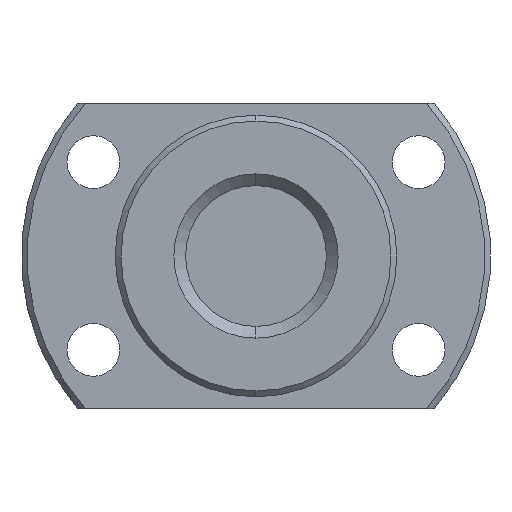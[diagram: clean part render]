
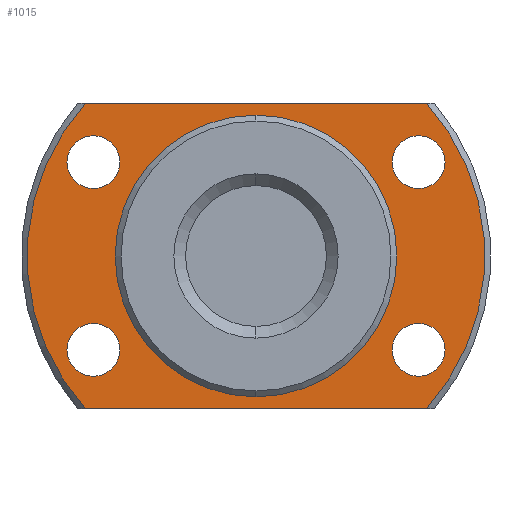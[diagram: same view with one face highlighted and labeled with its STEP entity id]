
A CAD part, left-side view. The second image highlights one B-rep face of the part: STEP entity #1015.
In plain terms, the highlighted planar face has unit normal (-1, 0, 0) as drawn and (1, 0, 0) by its records, which use the part's own axes.
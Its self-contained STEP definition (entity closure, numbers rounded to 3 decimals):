
#2 = CARTESIAN_POINT ( 'NONE',  ( 8., -13.856, -8. ) ) ;
#14 = CARTESIAN_POINT ( 'NONE',  ( 8., 14.534, -13. ) ) ;
#18 = FACE_BOUND ( 'NONE', #570, .T. ) ;
#22 = CIRCLE ( 'NONE', #1214, 2.25 ) ;
#62 = EDGE_CURVE ( 'NONE', #1338, #1148, #1162, .T. ) ;
#85 = CIRCLE ( 'NONE', #532, 19.5 ) ;
#123 = VERTEX_POINT ( 'NONE', #1043 ) ;
#132 = VERTEX_POINT ( 'NONE', #1577 ) ;
#142 = CARTESIAN_POINT ( 'NONE',  ( 8., -13.856, 5.75 ) ) ;
#148 = CARTESIAN_POINT ( 'NONE',  ( 8., 14.534, 13. ) ) ;
#149 = DIRECTION ( 'NONE',  ( 1., 0., 0. ) ) ;
#166 = CARTESIAN_POINT ( 'NONE',  ( 8., 0., 0. ) ) ;
#180 = VERTEX_POINT ( 'NONE', #142 ) ;
#185 = DIRECTION ( 'NONE',  ( 0., 0., -1. ) ) ;
#189 = EDGE_CURVE ( 'NONE', #782, #132, #1432, .T. ) ;
#202 = CARTESIAN_POINT ( 'NONE',  ( 8., -14.534, -13. ) ) ;
#215 = AXIS2_PLACEMENT_3D ( 'NONE', #280, #822, #1593 ) ;
#221 = ORIENTED_EDGE ( 'NONE', *, *, #631, .T. ) ;
#229 = AXIS2_PLACEMENT_3D ( 'NONE', #1475, #832, #809 ) ;
#240 = FACE_BOUND ( 'NONE', #649, .T. ) ;
#255 = DIRECTION ( 'NONE',  ( 0., -1., 0. ) ) ;
#266 = VERTEX_POINT ( 'NONE', #1061 ) ;
#279 = AXIS2_PLACEMENT_3D ( 'NONE', #2, #1186, #908 ) ;
#280 = CARTESIAN_POINT ( 'NONE',  ( 8., -13.856, 8. ) ) ;
#285 = ORIENTED_EDGE ( 'NONE', *, *, #1313, .T. ) ;
#288 = VERTEX_POINT ( 'NONE', #380 ) ;
#290 = DIRECTION ( 'NONE',  ( 1., 0., 0. ) ) ;
#296 = ORIENTED_EDGE ( 'NONE', *, *, #62, .T. ) ;
#319 = EDGE_LOOP ( 'NONE', ( #285, #942, #1478, #801 ) ) ;
#369 = AXIS2_PLACEMENT_3D ( 'NONE', #1189, #1341, #687 ) ;
#380 = CARTESIAN_POINT ( 'NONE',  ( 8., -15.805, -6.875 ) ) ;
#389 = CARTESIAN_POINT ( 'NONE',  ( 8., 13.856, -10.25 ) ) ;
#401 = EDGE_CURVE ( 'NONE', #123, #1487, #973, .T. ) ;
#406 = CARTESIAN_POINT ( 'NONE',  ( 8., 12., 13. ) ) ;
#414 = FACE_BOUND ( 'NONE', #819, .T. ) ;
#429 = CIRCLE ( 'NONE', #680, 2.25 ) ;
#445 = ORIENTED_EDGE ( 'NONE', *, *, #1664, .T. ) ;
#466 = DIRECTION ( 'NONE',  ( 0., 0., -1. ) ) ;
#478 = DIRECTION ( 'NONE',  ( 0., 0., -1. ) ) ;
#493 = CIRCLE ( 'NONE', #279, 2.25 ) ;
#515 = ORIENTED_EDGE ( 'NONE', *, *, #1172, .F. ) ;
#532 = AXIS2_PLACEMENT_3D ( 'NONE', #808, #149, #938 ) ;
#548 = FACE_BOUND ( 'NONE', #1573, .T. ) ;
#550 = EDGE_CURVE ( 'NONE', #266, #863, #22, .T. ) ;
#570 = EDGE_LOOP ( 'NONE', ( #1496, #445 ) ) ;
#617 = AXIS2_PLACEMENT_3D ( 'NONE', #1690, #901, #478 ) ;
#631 = EDGE_CURVE ( 'NONE', #863, #266, #1401, .T. ) ;
#643 = CARTESIAN_POINT ( 'NONE',  ( 8., -13.856, -8. ) ) ;
#649 = EDGE_LOOP ( 'NONE', ( #775, #1306 ) ) ;
#680 = AXIS2_PLACEMENT_3D ( 'NONE', #1378, #824, #185 ) ;
#687 = DIRECTION ( 'NONE',  ( 0., 0., -1. ) ) ;
#726 = CARTESIAN_POINT ( 'NONE',  ( 8., -13.856, 10.25 ) ) ;
#736 = CARTESIAN_POINT ( 'NONE',  ( 8., 13.856, 8. ) ) ;
#769 = DIRECTION ( 'NONE',  ( 1., 0., 0. ) ) ;
#775 = ORIENTED_EDGE ( 'NONE', *, *, #860, .T. ) ;
#782 = VERTEX_POINT ( 'NONE', #148 ) ;
#784 = CARTESIAN_POINT ( 'NONE',  ( 8., 13.856, 8. ) ) ;
#785 = DIRECTION ( 'NONE',  ( 0., 0., -1. ) ) ;
#797 = AXIS2_PLACEMENT_3D ( 'NONE', #876, #1260, #1268 ) ;
#801 = ORIENTED_EDGE ( 'NONE', *, *, #1227, .T. ) ;
#804 = FACE_OUTER_BOUND ( 'NONE', #319, .T. ) ;
#808 = CARTESIAN_POINT ( 'NONE',  ( 8., 0., 0. ) ) ;
#809 = DIRECTION ( 'NONE',  ( 0., 0., -1. ) ) ;
#819 = EDGE_LOOP ( 'NONE', ( #296, #828 ) ) ;
#822 = DIRECTION ( 'NONE',  ( -1., 0., 0. ) ) ;
#824 = DIRECTION ( 'NONE',  ( -1., 0., 0. ) ) ;
#827 = AXIS2_PLACEMENT_3D ( 'NONE', #166, #290, #785 ) ;
#828 = ORIENTED_EDGE ( 'NONE', *, *, #1486, .T. ) ;
#832 = DIRECTION ( 'NONE',  ( 1., 0., 0. ) ) ;
#841 = DIRECTION ( 'NONE',  ( 0., 1., 0. ) ) ;
#860 = EDGE_CURVE ( 'NONE', #180, #1464, #1397, .T. ) ;
#863 = VERTEX_POINT ( 'NONE', #1235 ) ;
#873 = DIRECTION ( 'NONE',  ( 0., 0., -1. ) ) ;
#876 = CARTESIAN_POINT ( 'NONE',  ( 8., 13.856, -8. ) ) ;
#877 = VECTOR ( 'NONE', #255, 1000. ) ;
#897 = AXIS2_PLACEMENT_3D ( 'NONE', #1070, #769, #1448 ) ;
#901 = DIRECTION ( 'NONE',  ( 1., 0., 0. ) ) ;
#908 = DIRECTION ( 'NONE',  ( 0., 0., -1. ) ) ;
#938 = DIRECTION ( 'NONE',  ( 0., 0., -1. ) ) ;
#939 = CIRCLE ( 'NONE', #617, 12. ) ;
#942 = ORIENTED_EDGE ( 'NONE', *, *, #189, .T. ) ;
#973 = CIRCLE ( 'NONE', #229, 12. ) ;
#1004 = DIRECTION ( 'NONE',  ( -1., 0., 0. ) ) ;
#1015 = ADVANCED_FACE ( 'NONE', ( #804, #1292, #414, #240, #18, #548 ), #1547, .T. ) ;
#1024 = AXIS2_PLACEMENT_3D ( 'NONE', #643, #1169, #873 ) ;
#1042 = CARTESIAN_POINT ( 'NONE',  ( 8., 12., -13. ) ) ;
#1043 = CARTESIAN_POINT ( 'NONE',  ( 8., 0., 12. ) ) ;
#1061 = CARTESIAN_POINT ( 'NONE',  ( 8., 15.805, 6.875 ) ) ;
#1070 = CARTESIAN_POINT ( 'NONE',  ( 8., 12., 0. ) ) ;
#1148 = VERTEX_POINT ( 'NONE', #389 ) ;
#1162 = CIRCLE ( 'NONE', #797, 2.25 ) ;
#1169 = DIRECTION ( 'NONE',  ( -1., 0., 0. ) ) ;
#1172 = EDGE_CURVE ( 'NONE', #1487, #123, #939, .T. ) ;
#1186 = DIRECTION ( 'NONE',  ( -1., 0., 0. ) ) ;
#1189 = CARTESIAN_POINT ( 'NONE',  ( 8., -13.856, 8. ) ) ;
#1214 = AXIS2_PLACEMENT_3D ( 'NONE', #736, #1004, #466 ) ;
#1215 = VERTEX_POINT ( 'NONE', #202 ) ;
#1216 = CIRCLE ( 'NONE', #1024, 2.25 ) ;
#1217 = EDGE_LOOP ( 'NONE', ( #515, #1686 ) ) ;
#1227 = EDGE_CURVE ( 'NONE', #1215, #1271, #1262, .T. ) ;
#1235 = CARTESIAN_POINT ( 'NONE',  ( 8., 11.908, 9.125 ) ) ;
#1260 = DIRECTION ( 'NONE',  ( -1., 0., 0. ) ) ;
#1262 = LINE ( 'NONE', #1042, #1682 ) ;
#1268 = DIRECTION ( 'NONE',  ( 0., 0., -1. ) ) ;
#1271 = VERTEX_POINT ( 'NONE', #14 ) ;
#1292 = FACE_BOUND ( 'NONE', #1217, .T. ) ;
#1298 = ORIENTED_EDGE ( 'NONE', *, *, #550, .T. ) ;
#1306 = ORIENTED_EDGE ( 'NONE', *, *, #1325, .T. ) ;
#1313 = EDGE_CURVE ( 'NONE', #1271, #782, #1572, .T. ) ;
#1321 = EDGE_CURVE ( 'NONE', #132, #1215, #85, .T. ) ;
#1325 = EDGE_CURVE ( 'NONE', #1464, #180, #1492, .T. ) ;
#1338 = VERTEX_POINT ( 'NONE', #1604 ) ;
#1341 = DIRECTION ( 'NONE',  ( -1., 0., 0. ) ) ;
#1378 = CARTESIAN_POINT ( 'NONE',  ( 8., 13.856, -8. ) ) ;
#1397 = CIRCLE ( 'NONE', #215, 2.25 ) ;
#1401 = CIRCLE ( 'NONE', #1703, 2.25 ) ;
#1432 = LINE ( 'NONE', #406, #877 ) ;
#1444 = DIRECTION ( 'NONE',  ( 0., 0., -1. ) ) ;
#1448 = DIRECTION ( 'NONE',  ( 0., 1., 0. ) ) ;
#1464 = VERTEX_POINT ( 'NONE', #726 ) ;
#1475 = CARTESIAN_POINT ( 'NONE',  ( 8., 0., 0. ) ) ;
#1478 = ORIENTED_EDGE ( 'NONE', *, *, #1321, .T. ) ;
#1486 = EDGE_CURVE ( 'NONE', #1148, #1338, #429, .T. ) ;
#1487 = VERTEX_POINT ( 'NONE', #1618 ) ;
#1492 = CIRCLE ( 'NONE', #369, 2.25 ) ;
#1496 = ORIENTED_EDGE ( 'NONE', *, *, #1685, .T. ) ;
#1547 = PLANE ( 'NONE',  #897 ) ;
#1572 = CIRCLE ( 'NONE', #827, 19.5 ) ;
#1573 = EDGE_LOOP ( 'NONE', ( #221, #1298 ) ) ;
#1577 = CARTESIAN_POINT ( 'NONE',  ( 8., -14.534, 13. ) ) ;
#1593 = DIRECTION ( 'NONE',  ( 0., 0., -1. ) ) ;
#1604 = CARTESIAN_POINT ( 'NONE',  ( 8., 13.856, -5.75 ) ) ;
#1607 = VERTEX_POINT ( 'NONE', #1679 ) ;
#1618 = CARTESIAN_POINT ( 'NONE',  ( 8., 0., -12. ) ) ;
#1664 = EDGE_CURVE ( 'NONE', #288, #1607, #1216, .T. ) ;
#1679 = CARTESIAN_POINT ( 'NONE',  ( 8., -11.908, -9.125 ) ) ;
#1682 = VECTOR ( 'NONE', #841, 1000. ) ;
#1685 = EDGE_CURVE ( 'NONE', #1607, #288, #493, .T. ) ;
#1686 = ORIENTED_EDGE ( 'NONE', *, *, #401, .F. ) ;
#1690 = CARTESIAN_POINT ( 'NONE',  ( 8., 0., 0. ) ) ;
#1703 = AXIS2_PLACEMENT_3D ( 'NONE', #784, #1707, #1444 ) ;
#1707 = DIRECTION ( 'NONE',  ( -1., 0., 0. ) ) ;
